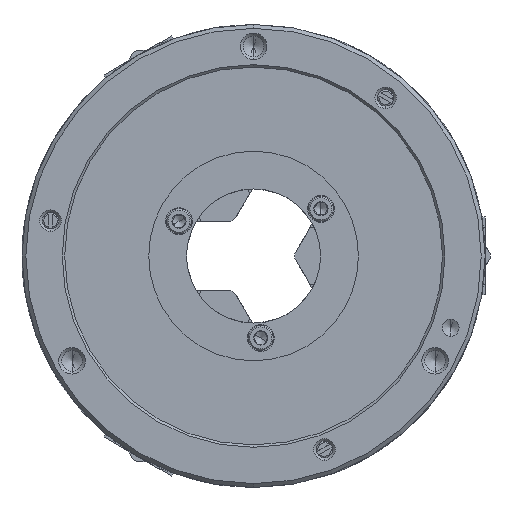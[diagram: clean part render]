
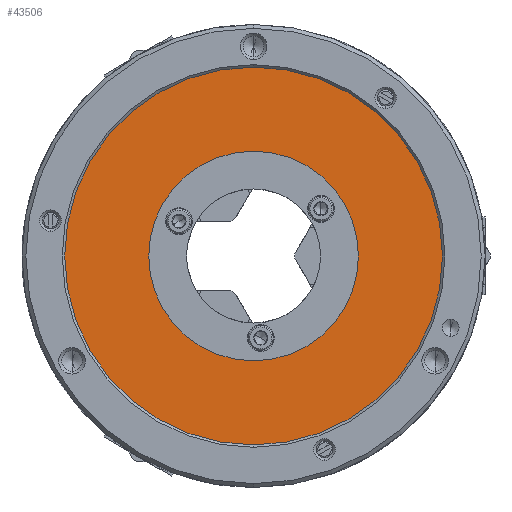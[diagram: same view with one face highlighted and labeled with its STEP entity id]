
A CAD part, left-side view. The second image highlights one B-rep face of the part: STEP entity #43506.
In plain terms, the highlighted planar face has unit normal (-1, 0, 0).
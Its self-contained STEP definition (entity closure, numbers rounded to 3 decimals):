
#4206 = CARTESIAN_POINT ( 'NONE',  ( -70., 0., 43. ) ) ;
#5106 = ORIENTED_EDGE ( 'NONE', *, *, #26143, .T. ) ;
#6331 = CARTESIAN_POINT ( 'NONE',  ( -70., 0., -77.5 ) ) ;
#7622 = DIRECTION ( 'NONE',  ( -1., 0., 0. ) ) ;
#8177 = EDGE_CURVE ( 'NONE', #61196, #16681, #19796, .T. ) ;
#8708 = AXIS2_PLACEMENT_3D ( 'NONE', #69021, #58337, #9762 ) ;
#8728 = ORIENTED_EDGE ( 'NONE', *, *, #21650, .T. ) ;
#9762 = DIRECTION ( 'NONE',  ( 0., 0., 1. ) ) ;
#11600 = AXIS2_PLACEMENT_3D ( 'NONE', #44579, #7622, #45643 ) ;
#13316 = CARTESIAN_POINT ( 'NONE',  ( -70., 0., 0. ) ) ;
#13946 = VERTEX_POINT ( 'NONE', #24916 ) ;
#16681 = VERTEX_POINT ( 'NONE', #36778 ) ;
#17401 = DIRECTION ( 'NONE',  ( 0., 0., -1. ) ) ;
#19093 = CIRCLE ( 'NONE', #51943, 77.5 ) ;
#19216 = VERTEX_POINT ( 'NONE', #6331 ) ;
#19796 = CIRCLE ( 'NONE', #42483, 43. ) ;
#21283 = CIRCLE ( 'NONE', #60907, 43. ) ;
#21650 = EDGE_CURVE ( 'NONE', #13946, #19216, #67131, .T. ) ;
#23961 = EDGE_LOOP ( 'NONE', ( #45471, #29505 ) ) ;
#24916 = CARTESIAN_POINT ( 'NONE',  ( -70., 0., 77.5 ) ) ;
#26143 = EDGE_CURVE ( 'NONE', #19216, #13946, #19093, .T. ) ;
#27033 = DIRECTION ( 'NONE',  ( 0., 0., 1. ) ) ;
#29505 = ORIENTED_EDGE ( 'NONE', *, *, #8177, .T. ) ;
#33739 = DIRECTION ( 'NONE',  ( -1., 0., 0. ) ) ;
#36778 = CARTESIAN_POINT ( 'NONE',  ( -70., 0., -43. ) ) ;
#38721 = CARTESIAN_POINT ( 'NONE',  ( -70., 0., 0. ) ) ;
#42483 = AXIS2_PLACEMENT_3D ( 'NONE', #13316, #55828, #66541 ) ;
#43506 = ADVANCED_FACE ( 'NONE', ( #47724, #68675 ), #64388, .T. ) ;
#44579 = CARTESIAN_POINT ( 'NONE',  ( -70., 0., 0. ) ) ;
#45471 = ORIENTED_EDGE ( 'NONE', *, *, #54092, .T. ) ;
#45643 = DIRECTION ( 'NONE',  ( 0., 0., 1. ) ) ;
#47724 = FACE_BOUND ( 'NONE', #23961, .T. ) ;
#50061 = DIRECTION ( 'NONE',  ( 1., 0., 0. ) ) ;
#51943 = AXIS2_PLACEMENT_3D ( 'NONE', #38721, #33739, #27033 ) ;
#54092 = EDGE_CURVE ( 'NONE', #16681, #61196, #21283, .T. ) ;
#55828 = DIRECTION ( 'NONE',  ( 1., 0., 0. ) ) ;
#56109 = EDGE_LOOP ( 'NONE', ( #5106, #8728 ) ) ;
#58337 = DIRECTION ( 'NONE',  ( -1., 0., 0. ) ) ;
#60907 = AXIS2_PLACEMENT_3D ( 'NONE', #66046, #50061, #17401 ) ;
#61196 = VERTEX_POINT ( 'NONE', #4206 ) ;
#64388 = PLANE ( 'NONE',  #8708 ) ;
#66046 = CARTESIAN_POINT ( 'NONE',  ( -70., 0., 0. ) ) ;
#66541 = DIRECTION ( 'NONE',  ( 0., 0., -1. ) ) ;
#67131 = CIRCLE ( 'NONE', #11600, 77.5 ) ;
#68675 = FACE_OUTER_BOUND ( 'NONE', #56109, .T. ) ;
#69021 = CARTESIAN_POINT ( 'NONE',  ( -70., 43., 0. ) ) ;
